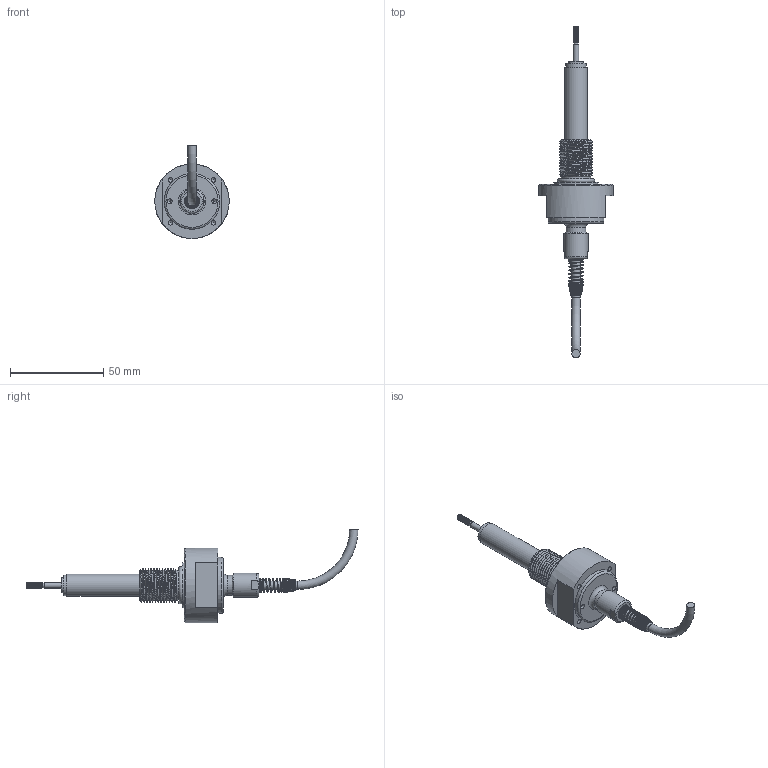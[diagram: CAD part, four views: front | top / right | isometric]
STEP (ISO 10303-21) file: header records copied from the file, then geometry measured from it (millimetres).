
FILE_DESCRIPTION( ( 'STEP AP203' ), '1' );
FILE_NAME( 'N:/Engineering/CAD_Solid/LVDT/HYD/Kunden-3D-Modell/SM10-HYD-18-K.stp', '2011-12-14T08:22:08', ( ' ' ), ( ' ' ), 'XStep 1.0', ' ', ' ' );
FILE_SCHEMA( ( 'CONFIG_CONTROL_DESIGN) ( )' ) );
Length unit declared in the file: metre
Products named in the file (12): 1; 2; 3; 4; 5; 6; 7; 8; 9; 10; 11; 12
Bounding box: 40 x 178.25 x 50 mm (x, y, z)
Volume: 1245.2 mm3; surface area: 14615.1 mm2
Topology: 2 solids, 76 shells, 80 faces, 293 edges, 243 vertices
Faces by surface type: plane 24, cylinder 23, cone 16, bspline 12, torus 5
Full cylindrical faces by diameter (mm): 2.5 x5, 2.6 x2, 3 x1, 4 x1, 4.5 x1, 6 x1, 8 x1, 8.2 x1, 10.6 x1, 11 x1, 12 x1, 13 x1, 15.8 x1, 24 x1, 30 x1, 40 x1
Entity records: 18634 total; most frequent: CARTESIAN_POINT 16144, DIRECTION 458, ORIENTED_EDGE 219, EDGE_CURVE 216, VERTEX_POINT 216, AXIS2_PLACEMENT_3D 215, CIRCLE 136, EDGE_LOOP 133
